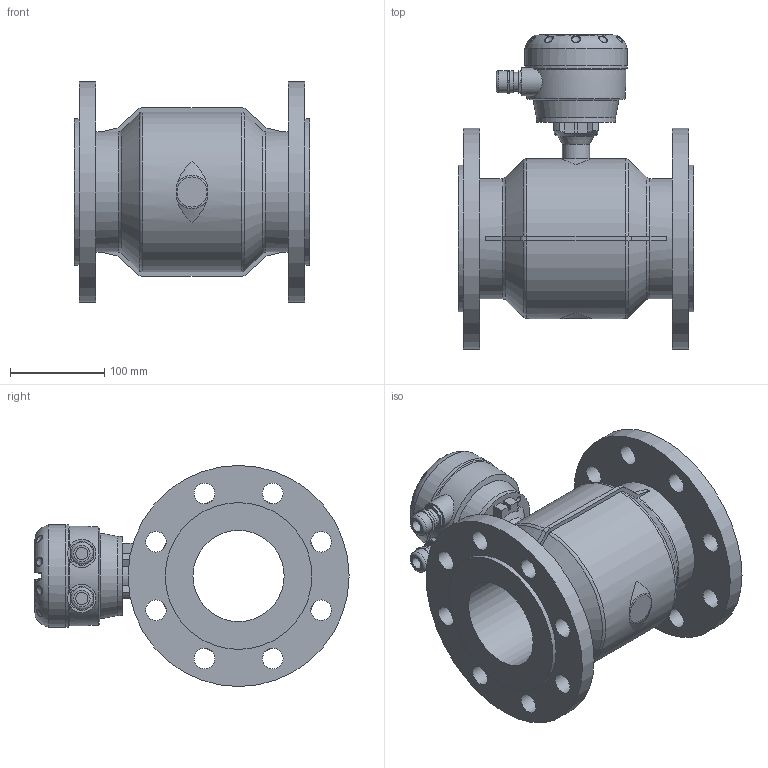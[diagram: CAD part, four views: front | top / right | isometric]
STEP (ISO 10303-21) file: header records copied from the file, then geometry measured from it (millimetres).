
FILE_DESCRIPTION (( 'STEP AP203' ), '1' );
FILE_NAME ('KROHNE_OPTIFLUX_2-4000W_DIN2635_DN100_PN40.STEP', '2011-04-26T11:26:13', ( '' ), ( '' ), 'SwSTEP 2.0', 'SolidWorks 2010', '' );
FILE_SCHEMA (( 'CONFIG_CONTROL_DESIGN' ));
Length unit declared in the file: millimetre
Products named in the file (1): KROHNE_OPTIFLUX_2-4000W_DIN2635_DN100_PN40
Bounding box: 250 x 333.99 x 235 mm (x, y, z)
Volume: 4487553.6 mm3; surface area: 461474.5 mm2
Topology: 14 solids, 14 shells, 391 faces, 976 edges, 634 vertices
Faces by surface type: plane 179, cylinder 102, bspline 53, torus 30, cone 14, sphere 13
Full cylindrical faces by diameter (mm): 4 x4, 6.6 x8, 13 x2, 20 x2, 22 x16, 23.5 x4, 29 x1, 30 x2, 84 x2, 97 x1, 109 x1, 127.6 x2, 156 x2, 235 x2
Entity records: 15840 total; most frequent: CARTESIAN_POINT 7101, ORIENTED_EDGE 1746, DIRECTION 1657, EDGE_CURVE 873, AXIS2_PLACEMENT_3D 615, VERTEX_POINT 607, EDGE_LOOP 548, FACE_OUTER_BOUND 457
